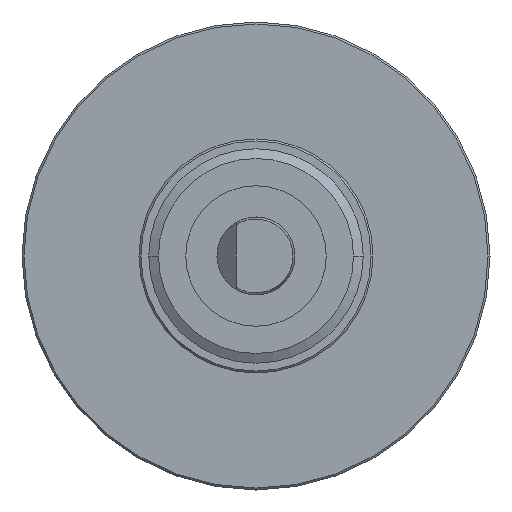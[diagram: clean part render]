
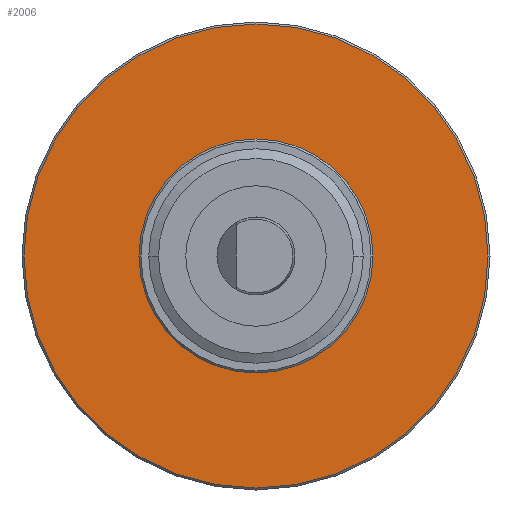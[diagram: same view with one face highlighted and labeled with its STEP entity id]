
A CAD part, left-side view. The second image highlights one B-rep face of the part: STEP entity #2006.
In plain terms, the highlighted planar face has unit normal (-1, 0, 0).
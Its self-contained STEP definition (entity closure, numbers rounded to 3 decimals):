
#156=CARTESIAN_POINT('',(-1.3,0.,0.));
#157=DIRECTION('',(-1.,0.,0.));
#158=DIRECTION('',(0.,1.,0.));
#159=AXIS2_PLACEMENT_3D('',#156,#157,#158);
#164=CARTESIAN_POINT('',(-1.3,0.,0.));
#165=DIRECTION('',(-1.,0.,0.));
#166=DIRECTION('',(0.,-1.,0.));
#167=AXIS2_PLACEMENT_3D('',#164,#165,#166);
#217=CARTESIAN_POINT('',(-1.3,0.,0.));
#218=DIRECTION('',(-1.,0.,0.));
#219=DIRECTION('',(0.,1.,0.));
#220=AXIS2_PLACEMENT_3D('',#217,#218,#219);
#286=CARTESIAN_POINT('',(-1.3,0.,0.));
#287=DIRECTION('',(1.,0.,0.));
#288=DIRECTION('',(0.,1.,0.));
#289=AXIS2_PLACEMENT_3D('',#286,#287,#288);
#1679=CARTESIAN_POINT('',(-1.3,3.,0.));
#1680=CARTESIAN_POINT('',(-1.3,-3.,0.));
#1681=VERTEX_POINT('',#1679);
#1682=VERTEX_POINT('',#1680);
#1715=CARTESIAN_POINT('',(-1.3,5.95,0.));
#1716=CARTESIAN_POINT('',(-1.3,-5.95,0.));
#1717=VERTEX_POINT('',#1715);
#1718=VERTEX_POINT('',#1716);
#1990=CARTESIAN_POINT('',(-1.3,0.,0.));
#1991=DIRECTION('',(-1.,0.,0.));
#1992=DIRECTION('',(0.,1.,0.));
#1993=AXIS2_PLACEMENT_3D('',#1990,#1991,#1992);
#1994=PLANE('',#1993);
#1995=ORIENTED_EDGE('',*,*,#1980,.F.);
#1997=ORIENTED_EDGE('',*,*,#1996,.F.);
#1998=EDGE_LOOP('',(#1995,#1997));
#1999=FACE_OUTER_BOUND('',#1998,.F.);
#2001=ORIENTED_EDGE('',*,*,#2000,.T.);
#2003=ORIENTED_EDGE('',*,*,#2002,.F.);
#2004=EDGE_LOOP('',(#2001,#2003));
#2005=FACE_BOUND('',#2004,.F.);
#2006=ADVANCED_FACE('',(#1999,#2005),#1994,.T.);
#160=CIRCLE('',#159,5.95);
#168=CIRCLE('',#167,5.95);
#221=CIRCLE('',#220,3.);
#290=CIRCLE('',#289,3.);
#1980=EDGE_CURVE('',#1717,#1718,#160,.T.);
#1996=EDGE_CURVE('',#1718,#1717,#168,.T.);
#2000=EDGE_CURVE('',#1681,#1682,#221,.T.);
#2002=EDGE_CURVE('',#1681,#1682,#290,.T.);
